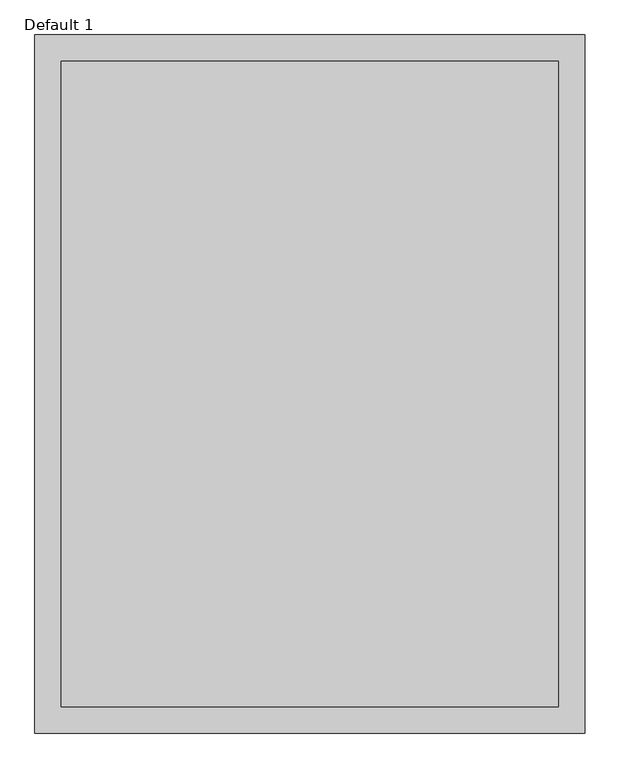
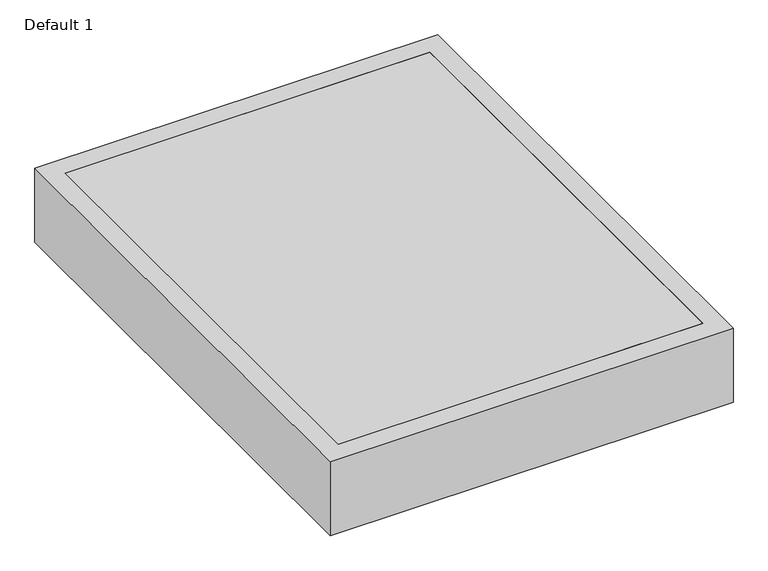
"""IFC4 building model written with IfcOpenShell, lengths in millimetres: proxy geometry, Skylite : Default 1."""

from ifc_helpers import new_model, si_unit, frame, origin, place, context, project, spatial, polyline, outline, extrude, source, transform, mapped, element, save


def default_1_89aeced2(model_context):
    return source(origin(), model_context, "Body", "SweptSolid", [
        extrude(outline(polyline([(-470.7, 610.4), (470.7, 610.4), (470.7, -610.4), (-470.7, -610.4), (-470.7, 610.4)])), frame((0.0, 0.0, 4157.0595878), z_axis=(0.0, 0.0, 1.0), x_axis=(1.0, 0.0, 0.0)), (0.0, 0.0, 1.0), 20.0),
        extrude(outline(polyline([(-520.7, -660.4), (-520.7, 660.4), (520.7, 660.4), (520.7, -660.4), (-520.7, -660.4)]), holes=[polyline([(470.7, 610.4), (-470.7, 610.4), (-470.7, -610.4), (470.7, -610.4), (470.7, 610.4)])]), frame((0.0, 0.0, 3974.6408791), z_axis=(0.0, 0.0, 1.0), x_axis=(1.0, 0.0, 0.0)), (0.0, 0.0, 1.0), 202.4187087),
    ])


if __name__ == "__main__":
    model = new_model("IFC4")
    model_context = context("Model", 3, world=origin())
    ifc_project = project(units=[si_unit("LENGTHUNIT", "METRE", prefix="MILLI")], contexts=[model_context])
    site = spatial("IfcSite", under=ifc_project)
    building = spatial("IfcBuilding", under=site)
    placement = place(None, origin())
    default_1_shape = default_1_89aeced2(model_context)
    element("IfcBuildingElementProxy", 1, Name="Skylite : Default 1", ObjectType="Skylite : Default 1", at=placement, inside=building, context=model_context, shape_type="MappedRepresentation", body=[
        mapped(default_1_shape, transform((0.0, 0.0, 0.0), x_axis=(1.0, 0.0, 0.0), y_axis=(0.0, 1.0, 0.0), z_axis=(0.0, 0.0, 1.0))),
    ])
    save(model, "model.ifc")
